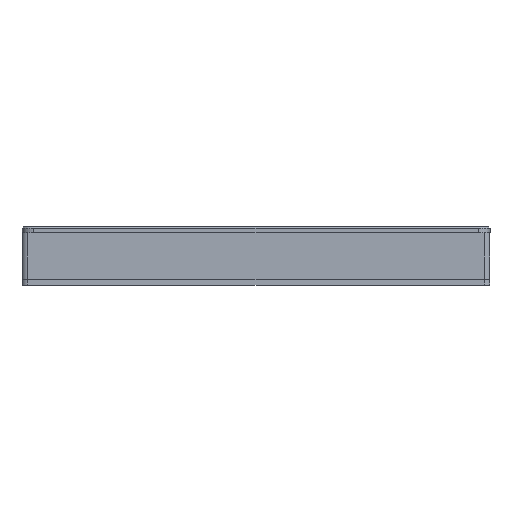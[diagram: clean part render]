
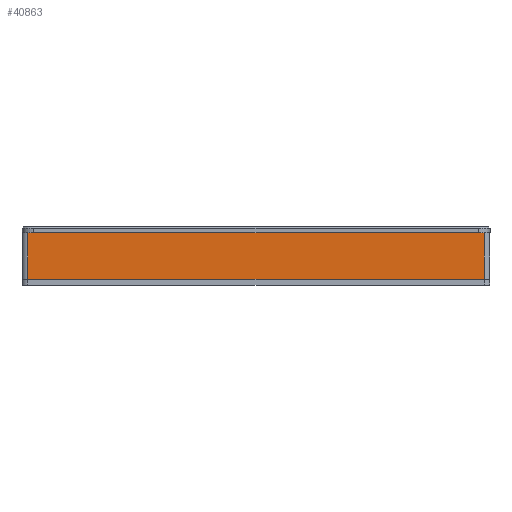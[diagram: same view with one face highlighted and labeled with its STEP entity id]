
A CAD part, left-side view. The second image highlights one B-rep face of the part: STEP entity #40863.
In plain terms, the highlighted planar face has unit normal (-1, 0, 0).
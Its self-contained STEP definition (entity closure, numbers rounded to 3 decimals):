
#619 = LINE ( 'NONE', #13337, #36074 ) ;
#3124 = EDGE_CURVE ( 'NONE', #6793, #37053, #15832, .T. ) ;
#4820 = VECTOR ( 'NONE', #34521, 1000. ) ;
#5291 = CARTESIAN_POINT ( 'NONE',  ( -105., -80., 0. ) ) ;
#6793 = VERTEX_POINT ( 'NONE', #10949 ) ;
#6907 = LINE ( 'NONE', #27824, #4820 ) ;
#7008 = VECTOR ( 'NONE', #22084, 1000. ) ;
#9975 = DIRECTION ( 'NONE',  ( 0., 0., 1. ) ) ;
#10694 = DIRECTION ( 'NONE',  ( 0., -1., 0. ) ) ;
#10949 = CARTESIAN_POINT ( 'NONE',  ( -105., 78., 0. ) ) ;
#13337 = CARTESIAN_POINT ( 'NONE',  ( -105., -78., 16. ) ) ;
#14014 = PLANE ( 'NONE',  #38720 ) ;
#14961 = CARTESIAN_POINT ( 'NONE',  ( -105., -78., 16. ) ) ;
#15074 = ORIENTED_EDGE ( 'NONE', *, *, #27518, .T. ) ;
#15832 = LINE ( 'NONE', #5291, #7008 ) ;
#16712 = EDGE_CURVE ( 'NONE', #34734, #26980, #30048, .T. ) ;
#18572 = CARTESIAN_POINT ( 'NONE',  ( -105., 78., 16. ) ) ;
#20767 = DIRECTION ( 'NONE',  ( 0., 0., -1. ) ) ;
#21901 = EDGE_CURVE ( 'NONE', #37053, #26980, #619, .T. ) ;
#22084 = DIRECTION ( 'NONE',  ( 0., -1., 0. ) ) ;
#26980 = VERTEX_POINT ( 'NONE', #14961 ) ;
#27518 = EDGE_CURVE ( 'NONE', #34734, #6793, #6907, .T. ) ;
#27824 = CARTESIAN_POINT ( 'NONE',  ( -105., 78., 16. ) ) ;
#28169 = FACE_OUTER_BOUND ( 'NONE', #42329, .T. ) ;
#30048 = LINE ( 'NONE', #34076, #37843 ) ;
#30523 = ORIENTED_EDGE ( 'NONE', *, *, #16712, .F. ) ;
#32706 = ORIENTED_EDGE ( 'NONE', *, *, #3124, .T. ) ;
#34076 = CARTESIAN_POINT ( 'NONE',  ( -105., -80., 16. ) ) ;
#34521 = DIRECTION ( 'NONE',  ( 0., 0., -1. ) ) ;
#34734 = VERTEX_POINT ( 'NONE', #18572 ) ;
#34943 = CARTESIAN_POINT ( 'NONE',  ( -105., -78., 0. ) ) ;
#36074 = VECTOR ( 'NONE', #9975, 1000. ) ;
#37053 = VERTEX_POINT ( 'NONE', #34943 ) ;
#37353 = CARTESIAN_POINT ( 'NONE',  ( -105., -80., 16. ) ) ;
#37843 = VECTOR ( 'NONE', #10694, 1000. ) ;
#38320 = ORIENTED_EDGE ( 'NONE', *, *, #21901, .T. ) ;
#38720 = AXIS2_PLACEMENT_3D ( 'NONE', #37353, #40706, #20767 ) ;
#40706 = DIRECTION ( 'NONE',  ( 1., 0., 0. ) ) ;
#40863 = ADVANCED_FACE ( 'NONE', ( #28169 ), #14014, .F. ) ;
#42329 = EDGE_LOOP ( 'NONE', ( #30523, #15074, #32706, #38320 ) ) ;
